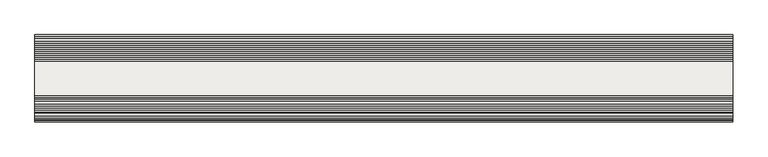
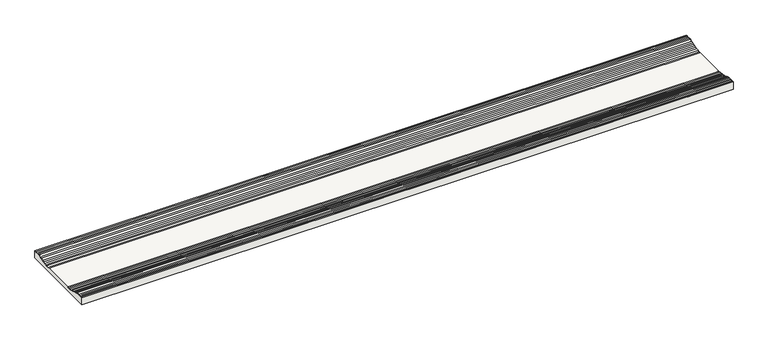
"""IFC4 building model written with IfcOpenShell, lengths in millimetres: slab geometry, ROSA GRES_204 : Pieza 204_Indugres_Indubeige_Tecno."""

from ifc_helpers import new_model, si_unit, point, frame, frame_2d, origin, place, context, project, spatial, polyline, circle_curve, trimmed, segment, composite_curve, outline, extrude, source, transform, mapped, element, save


def slab_fda458ed(model_context):
    return source(origin(), model_context, "Body", "SweptSolid", [
        extrude(outline(composite_curve([segment(polyline([(0.0, 0.0), (0.0, 22.8672484), (3.4834385, 22.8672484)]), True, "CONTINUOUS"), segment(trimmed(circle_curve(frame_2d((3.4834385, 24.9459193)), 2.078671), [point((3.4834385, 22.8672484))], [point((5.3933441, 24.1254722))], True, "CARTESIAN"), True, "CONTINUOUS"), segment(trimmed(circle_curve(frame_2d((8.4772441, 27.2443435)), 4.3860914), [point((5.3933441, 24.1254722))], [point((11.4768535, 24.0443215))], True, "CARTESIAN"), True, "CONTINUOUS"), segment(trimmed(circle_curve(frame_2d((14.4834385, 27.2619892)), 4.4037415), [point((11.4768535, 24.0443215))], [point((17.4838192, 24.0385354))], True, "CARTESIAN"), True, "CONTINUOUS"), segment(trimmed(circle_curve(frame_2d((20.4772441, 27.2443435)), 4.3860914), [point((17.4838192, 24.0385354))], [point((23.5481555, 24.1126825))], True, "CARTESIAN"), True, "CONTINUOUS"), segment(trimmed(circle_curve(frame_2d((27.5873515, 25.8222711)), 4.3860914), [point((23.5481555, 24.1126825))], [point((29.0929084, 21.702672))], True, "CARTESIAN"), True, "CONTINUOUS"), segment(trimmed(circle_curve(frame_2d((32.9910112, 23.7132919)), 4.3860914), [point((29.0929084, 21.702672))], [point((34.6740913, 19.6629784))], True, "CARTESIAN"), True, "CONTINUOUS"), segment(trimmed(circle_curve(frame_2d((38.5344705, 21.7451095)), 4.3860914), [point((34.6740913, 19.6629784))], [point((40.406127, 17.7784107))], True, "CARTESIAN"), True, "CONTINUOUS"), segment(trimmed(circle_curve(frame_2d((44.1065968, 20.1330489)), 4.3860914), [point((40.406127, 17.7784107))], [point((46.146977, 16.2504407))], True, "CARTESIAN"), True, "CONTINUOUS"), segment(trimmed(circle_curve(frame_2d((49.7914497, 18.690854)), 4.3860914), [point((46.146977, 16.2504407))], [point((52.0386105, 14.9241491))], True, "CARTESIAN"), True, "CONTINUOUS"), segment(trimmed(circle_curve(frame_2d((55.5496933, 17.5528551)), 4.3860914), [point((52.0386105, 14.9241491))], [point((57.8759715, 13.8344915))], True, "CARTESIAN"), True, "CONTINUOUS"), segment(trimmed(circle_curve(frame_2d((61.3099097, 16.563203)), 4.3860914), [point((57.8759715, 13.8344915))], [point((63.8574067, 12.9927609))], True, "CARTESIAN"), True, "CONTINUOUS"), segment(trimmed(circle_curve(frame_2d((67.1546539, 15.8851576)), 4.3860914), [point((63.8574067, 12.9927609))], [point((69.7580788, 12.3552884))], True, "CARTESIAN"), True, "CONTINUOUS"), segment(trimmed(circle_curve(frame_2d((72.9411902, 15.372837)), 4.3860914), [point((69.7580788, 12.3552884))], [point((75.6586011, 11.9299493))], True, "CARTESIAN"), True, "CONTINUOUS"), segment(polyline([(75.6586011, 11.9299493), (174.3413989, 11.9299493)]), True, "CONTINUOUS"), segment(trimmed(circle_curve(frame_2d((177.0588098, 15.372837)), 4.3860914), [point((174.3413989, 11.9299493))], [point((180.2419212, 12.3552884))], True, "CARTESIAN"), True, "CONTINUOUS"), segment(trimmed(circle_curve(frame_2d((182.8453461, 15.8851576)), 4.3860914), [point((180.2419212, 12.3552884))], [point((186.1425933, 12.9927609))], True, "CARTESIAN"), True, "CONTINUOUS"), segment(trimmed(circle_curve(frame_2d((188.6900903, 16.563203)), 4.3860914), [point((186.1425933, 12.9927609))], [point((192.1240285, 13.8344915))], True, "CARTESIAN"), True, "CONTINUOUS"), segment(trimmed(circle_curve(frame_2d((194.4503067, 17.5528551)), 4.3860914), [point((192.1240285, 13.8344915))], [point((197.9613895, 14.9241491))], True, "CARTESIAN"), True, "CONTINUOUS"), segment(trimmed(circle_curve(frame_2d((200.2085503, 18.690854)), 4.3860914), [point((197.9613895, 14.9241491))], [point((203.853023, 16.2504407))], True, "CARTESIAN"), True, "CONTINUOUS"), segment(trimmed(circle_curve(frame_2d((205.8934032, 20.1330489)), 4.3860914), [point((203.853023, 16.2504407))], [point((209.593873, 17.7784107))], True, "CARTESIAN"), True, "CONTINUOUS"), segment(trimmed(circle_curve(frame_2d((211.4655295, 21.7451095)), 4.3860914), [point((209.593873, 17.7784107))], [point((215.3259087, 19.6629784))], True, "CARTESIAN"), True, "CONTINUOUS"), segment(trimmed(circle_curve(frame_2d((217.0089888, 23.7132919)), 4.3860914), [point((215.3259087, 19.6629784))], [point((220.9070916, 21.702672))], True, "CARTESIAN"), True, "CONTINUOUS"), segment(trimmed(circle_curve(frame_2d((222.4126485, 25.8222711)), 4.3860914), [point((220.9070916, 21.702672))], [point((226.4518445, 24.1126825))], True, "CARTESIAN"), True, "CONTINUOUS"), segment(trimmed(circle_curve(frame_2d((229.5227559, 27.2443435)), 4.3860914), [point((226.4518445, 24.1126825))], [point((232.5161808, 24.0385354))], True, "CARTESIAN"), True, "CONTINUOUS"), segment(trimmed(circle_curve(frame_2d((235.5165615, 27.2619892)), 4.4037415), [point((232.5161808, 24.0385354))], [point((238.5231465, 24.0443215))], True, "CARTESIAN"), True, "CONTINUOUS"), segment(trimmed(circle_curve(frame_2d((241.5227559, 27.2443435)), 4.3860914), [point((238.5231465, 24.0443215))], [point((244.6066559, 24.1254722))], True, "CARTESIAN"), True, "CONTINUOUS"), segment(trimmed(circle_curve(frame_2d((246.5165615, 24.9459193)), 2.078671), [point((244.6066559, 24.1254722))], [point((246.5165615, 22.8672484))], True, "CARTESIAN"), True, "CONTINUOUS"), segment(polyline([(246.5165615, 22.8672484), (250.0, 22.8672484), (250.0, 0.0), (0.0, 0.0)]), True, "CONTINUOUS")], self_intersect=False)), frame((0.0, 0.0, 0.0), z_axis=(1.0, 0.0, 0.0), x_axis=(0.0, 1.0, 0.0)), (0.0, 0.0, 1.0), 2000.0),
    ])


if __name__ == "__main__":
    model = new_model("IFC4")
    model_context = context("Model", 3, world=origin())
    ifc_project = project(units=[si_unit("LENGTHUNIT", "METRE", prefix="MILLI")], contexts=[model_context])
    site = spatial("IfcSite", under=ifc_project)
    building = spatial("IfcBuilding", under=site)
    placement = place(None, origin())
    slab_shape = slab_fda458ed(model_context)
    element("IfcSlab", 1, ObjectType="ROSA GRES_204 : Pieza 204_Indugres_Indubeige_Tecno", at=placement, inside=building, context=model_context, shape_type="MappedRepresentation", body=[
        mapped(slab_shape, transform((0.0, 0.0, 0.0), x_axis=(1.0, 0.0, 0.0), y_axis=(0.0, 1.0, 0.0), z_axis=(0.0, 0.0, 1.0))),
    ])
    save(model, "model.ifc")
